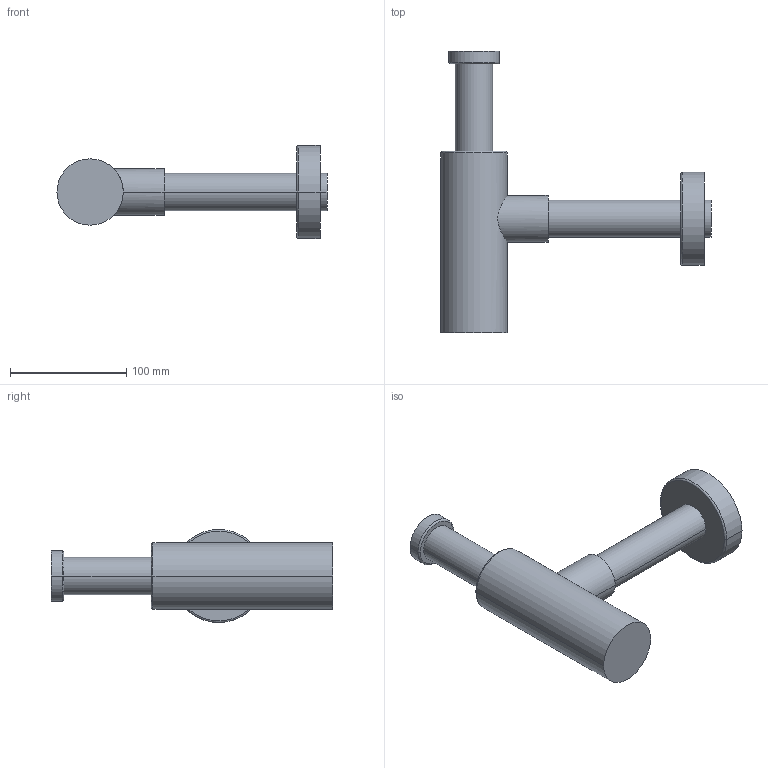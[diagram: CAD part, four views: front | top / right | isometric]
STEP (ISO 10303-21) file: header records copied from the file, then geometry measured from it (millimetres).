
FILE_DESCRIPTION((''),'2;1');
FILE_NAME('SIPHO_KOMPL_SW0001','2022-06-24T12:25:04',('KS894'),(''),'CREO PARAMETRIC BY PTC INC, 2018500','CREO PARAMETRIC BY PTC INC, 2018500','');
FILE_SCHEMA(('CONFIG_CONTROL_DESIGN'));
Length unit declared in the file: millimetre
Products named in the file (1): SIPHO_KOMPL_SW0001
Bounding box: 232 x 242 x 80 mm (x, y, z)
Volume: 717710.8 mm3; surface area: 73373 mm2
Topology: 1 solids, 1 shells, 28 faces, 55 edges, 34 vertices
Faces by surface type: cylinder 14, plane 8, torus 6
Entity records: 825 total; most frequent: CARTESIAN_POINT 175, DIRECTION 147, ORIENTED_EDGE 110, AXIS2_PLACEMENT_3D 66, EDGE_CURVE 55, CIRCLE 38, VERTEX_POINT 34, EDGE_LOOP 33
